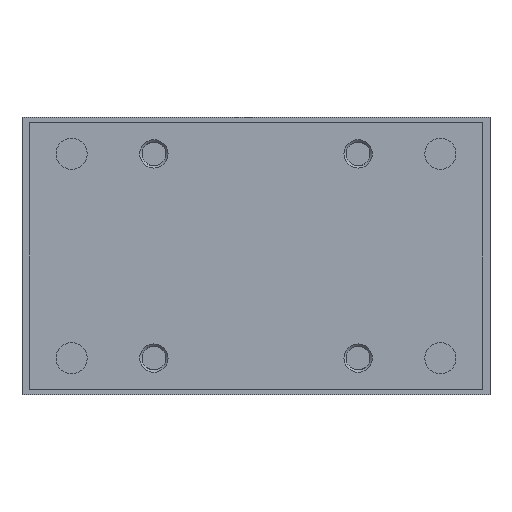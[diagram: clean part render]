
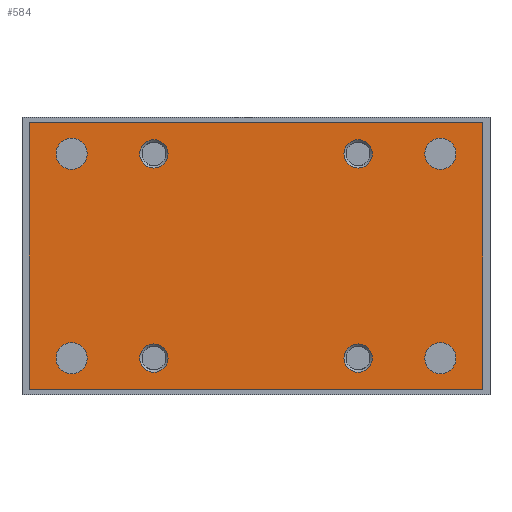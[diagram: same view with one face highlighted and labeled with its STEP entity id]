
A CAD part, left-side view. The second image highlights one B-rep face of the part: STEP entity #584.
In plain terms, the highlighted planar face has unit normal (-1, 0, 0).
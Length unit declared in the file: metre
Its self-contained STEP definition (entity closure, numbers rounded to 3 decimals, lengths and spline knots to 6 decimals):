
#584 = ADVANCED_FACE( '', ( #1364, #1365, #1366, #1367, #1368, #1369, #1370, #1371, #1372 ), #1373, .F. );
#1364 = FACE_BOUND( '', #2322, .T. );
#1365 = FACE_BOUND( '', #2323, .T. );
#1366 = FACE_BOUND( '', #2324, .T. );
#1367 = FACE_BOUND( '', #2325, .T. );
#1368 = FACE_BOUND( '', #2326, .T. );
#1369 = FACE_BOUND( '', #2327, .T. );
#1370 = FACE_BOUND( '', #2328, .T. );
#1371 = FACE_BOUND( '', #2329, .T. );
#1372 = FACE_OUTER_BOUND( '', #2330, .T. );
#1373 = PLANE( '', #2331 );
#2322 = EDGE_LOOP( '', ( #3783 ) );
#2323 = EDGE_LOOP( '', ( #3784 ) );
#2324 = EDGE_LOOP( '', ( #3785 ) );
#2325 = EDGE_LOOP( '', ( #3786 ) );
#2326 = EDGE_LOOP( '', ( #3787 ) );
#2327 = EDGE_LOOP( '', ( #3788 ) );
#2328 = EDGE_LOOP( '', ( #3789 ) );
#2329 = EDGE_LOOP( '', ( #3790 ) );
#2330 = EDGE_LOOP( '', ( #3791, #3792, #3793, #3794 ) );
#2331 = AXIS2_PLACEMENT_3D( '', #3795, #3796, #3797 );
#3783 = ORIENTED_EDGE( '', *, *, #4661, .T. );
#3784 = ORIENTED_EDGE( '', *, *, #4958, .T. );
#3785 = ORIENTED_EDGE( '', *, *, #4595, .T. );
#3786 = ORIENTED_EDGE( '', *, *, #4968, .T. );
#3787 = ORIENTED_EDGE( '', *, *, #4969, .T. );
#3788 = ORIENTED_EDGE( '', *, *, #4550, .F. );
#3789 = ORIENTED_EDGE( '', *, *, #4970, .F. );
#3790 = ORIENTED_EDGE( '', *, *, #4971, .T. );
#3791 = ORIENTED_EDGE( '', *, *, #4944, .T. );
#3792 = ORIENTED_EDGE( '', *, *, #4972, .T. );
#3793 = ORIENTED_EDGE( '', *, *, #4973, .T. );
#3794 = ORIENTED_EDGE( '', *, *, #4624, .T. );
#3795 = CARTESIAN_POINT( '', ( -0.107, -0.08, -0.096 ) );
#3796 = DIRECTION( '', ( 1., 0., 0. ) );
#3797 = DIRECTION( '', ( 0., 0., -1. ) );
#4550 = EDGE_CURVE( '', #5258, #5258, #5259, .T. );
#4595 = EDGE_CURVE( '', #5333, #5333, #5334, .T. );
#4624 = EDGE_CURVE( '', #5379, #5377, #5380, .T. );
#4661 = EDGE_CURVE( '', #5440, #5440, #5441, .T. );
#4944 = EDGE_CURVE( '', #5377, #5863, #5865, .T. );
#4958 = EDGE_CURVE( '', #5884, #5884, #5885, .T. );
#4968 = EDGE_CURVE( '', #5896, #5896, #5897, .T. );
#4969 = EDGE_CURVE( '', #5898, #5898, #5899, .T. );
#4970 = EDGE_CURVE( '', #5900, #5900, #5901, .T. );
#4971 = EDGE_CURVE( '', #5902, #5902, #5903, .T. );
#4972 = EDGE_CURVE( '', #5863, #5904, #5905, .T. );
#4973 = EDGE_CURVE( '', #5904, #5379, #5906, .T. );
#5258 = VERTEX_POINT( '', #6241 );
#5259 = CIRCLE( '', #6242, 0.005 );
#5333 = VERTEX_POINT( '', #6331 );
#5334 = CIRCLE( '', #6332, 0.0055 );
#5377 = VERTEX_POINT( '', #6420 );
#5379 = VERTEX_POINT( '', #6423 );
#5380 = LINE( '', #6424, #6425 );
#5440 = VERTEX_POINT( '', #6497 );
#5441 = CIRCLE( '', #6498, 0.0055 );
#5863 = VERTEX_POINT( '', #7234 );
#5865 = LINE( '', #7237, #7238 );
#5884 = VERTEX_POINT( '', #7259 );
#5885 = CIRCLE( '', #7260, 0.0055 );
#5896 = VERTEX_POINT( '', #7273 );
#5897 = CIRCLE( '', #7274, 0.0055 );
#5898 = VERTEX_POINT( '', #7275 );
#5899 = CIRCLE( '', #7276, 0.005 );
#5900 = VERTEX_POINT( '', #7277 );
#5901 = CIRCLE( '', #7278, 0.005 );
#5902 = VERTEX_POINT( '', #7279 );
#5903 = CIRCLE( '', #7280, 0.005 );
#5904 = VERTEX_POINT( '', #7281 );
#5905 = LINE( '', #7282, #7283 );
#5906 = LINE( '', #7284, #7285 );
#6241 = CARTESIAN_POINT( '', ( -0.107, 0.036, -0.09 ) );
#6242 = AXIS2_PLACEMENT_3D( '', #7604, #7605, #7606 );
#6331 = CARTESIAN_POINT( '', ( -0.107, -0.0595, -0.013 ) );
#6332 = AXIS2_PLACEMENT_3D( '', #7670, #7671, #7672 );
#6420 = CARTESIAN_POINT( '', ( -0.107, -0.08, -0.096 ) );
#6423 = CARTESIAN_POINT( '', ( -0.107, 0.08, -0.096 ) );
#6424 = CARTESIAN_POINT( '', ( -0.107, 0.08, -0.096 ) );
#6425 = VECTOR( '', #7701, 1. );
#6497 = CARTESIAN_POINT( '', ( -0.107, -0.0595, -0.085 ) );
#6498 = AXIS2_PLACEMENT_3D( '', #7753, #7754, #7755 );
#7234 = CARTESIAN_POINT( '', ( -0.107, -0.08, -0.002 ) );
#7237 = CARTESIAN_POINT( '', ( -0.107, -0.08, -0.096 ) );
#7238 = VECTOR( '', #8116, 1. );
#7259 = CARTESIAN_POINT( '', ( -0.107, 0.0705, -0.085 ) );
#7260 = AXIS2_PLACEMENT_3D( '', #8134, #8135, #8136 );
#7273 = CARTESIAN_POINT( '', ( -0.107, 0.0705, -0.013 ) );
#7274 = AXIS2_PLACEMENT_3D( '', #8145, #8146, #8147 );
#7275 = CARTESIAN_POINT( '', ( -0.107, -0.036, -0.09 ) );
#7276 = AXIS2_PLACEMENT_3D( '', #8148, #8149, #8150 );
#7277 = CARTESIAN_POINT( '', ( -0.107, -0.036, -0.008 ) );
#7278 = AXIS2_PLACEMENT_3D( '', #8151, #8152, #8153 );
#7279 = CARTESIAN_POINT( '', ( -0.107, 0.036, -0.008 ) );
#7280 = AXIS2_PLACEMENT_3D( '', #8154, #8155, #8156 );
#7281 = CARTESIAN_POINT( '', ( -0.107, 0.08, -0.002 ) );
#7282 = CARTESIAN_POINT( '', ( -0.107, -0.08, -0.002 ) );
#7283 = VECTOR( '', #8157, 1. );
#7284 = CARTESIAN_POINT( '', ( -0.107, 0.08, -0.002 ) );
#7285 = VECTOR( '', #8158, 1. );
#7604 = CARTESIAN_POINT( '', ( -0.107, 0.036, -0.085 ) );
#7605 = DIRECTION( '', ( -1., 0., 0. ) );
#7606 = DIRECTION( '', ( 0., 0., -1. ) );
#7670 = CARTESIAN_POINT( '', ( -0.107, -0.065, -0.013 ) );
#7671 = DIRECTION( '', ( 1., 0., 0. ) );
#7672 = DIRECTION( '', ( 0., 1., 0. ) );
#7701 = DIRECTION( '', ( 0., -1., 0. ) );
#7753 = CARTESIAN_POINT( '', ( -0.107, -0.065, -0.085 ) );
#7754 = DIRECTION( '', ( 1., 0., 0. ) );
#7755 = DIRECTION( '', ( 0., 1., 0. ) );
#8116 = DIRECTION( '', ( 0., 0., 1. ) );
#8134 = CARTESIAN_POINT( '', ( -0.107, 0.065, -0.085 ) );
#8135 = DIRECTION( '', ( 1., 0., 0. ) );
#8136 = DIRECTION( '', ( 0., 1., 0. ) );
#8145 = CARTESIAN_POINT( '', ( -0.107, 0.065, -0.013 ) );
#8146 = DIRECTION( '', ( 1., 0., 0. ) );
#8147 = DIRECTION( '', ( 0., 1., 0. ) );
#8148 = CARTESIAN_POINT( '', ( -0.107, -0.036, -0.085 ) );
#8149 = DIRECTION( '', ( 1., 0., 0. ) );
#8150 = DIRECTION( '', ( 0., 0., -1. ) );
#8151 = CARTESIAN_POINT( '', ( -0.107, -0.036, -0.013 ) );
#8152 = DIRECTION( '', ( -1., 0., 0. ) );
#8153 = DIRECTION( '', ( 0., 0., 1. ) );
#8154 = CARTESIAN_POINT( '', ( -0.107, 0.036, -0.013 ) );
#8155 = DIRECTION( '', ( 1., 0., 0. ) );
#8156 = DIRECTION( '', ( 0., 0., 1. ) );
#8157 = DIRECTION( '', ( 0., 1., 0. ) );
#8158 = DIRECTION( '', ( 0., 0., -1. ) );
